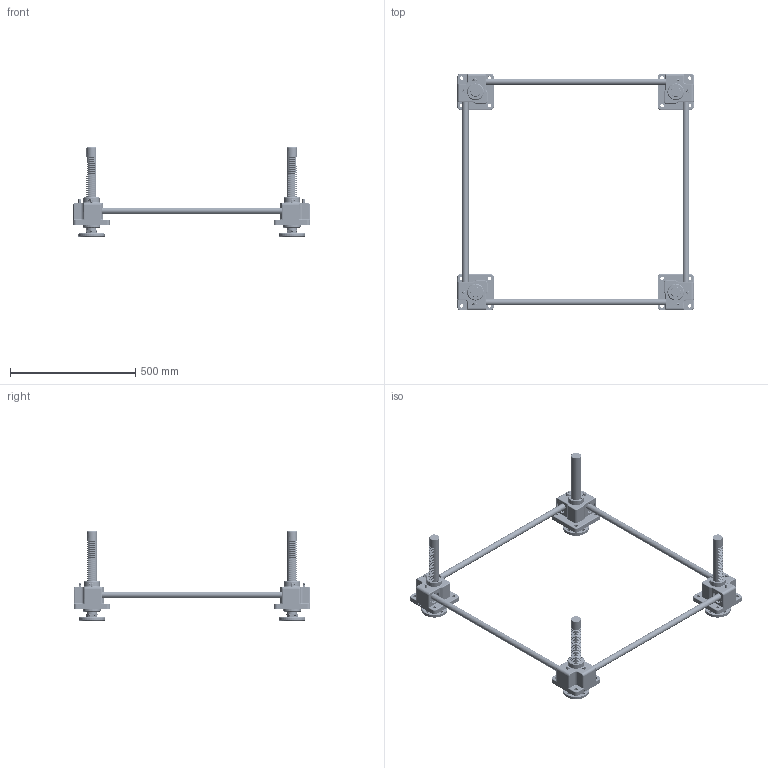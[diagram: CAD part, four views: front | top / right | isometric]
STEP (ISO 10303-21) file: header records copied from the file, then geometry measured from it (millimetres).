
FILE_DESCRIPTION(('STEP AP203'),'1');
FILE_NAME('SP3000FU-800x800-200ST.stp','2022-06-15T01:59:59',(' '),(' '),'Spatial InterOp 3D',' ',' ');
FILE_SCHEMA(('CONFIG_CONTROL_DESIGN'));
Length unit declared in the file: millimetre
Products named in the file (90): SP3000FU-800x800-200ST; ASSEM1; Flange.1-Part; Joint.1; Flange.1; Nut.1; Flange.2-Part; Nut.2; Joint.2; Flange.2; Flange.3-Part; Nut.3; Joint.3; Flange.3; Flange.4-Part; Nut.4; Joint.4; Flange.4; Body.1-Part; Nipple; SnapRing-58Pie; SnapRing-55Pie; 6205zz; Du Bush; Gear Box.1(SP-3000); RJ05-4SCJ-610X600-100ST_CAP; LABEL-B.1; ___; 파트18; __; Body.2-Part; Gear Box.2(SP-3000); Body.3-Part; Gear Box.3(SP-3000); Body.4-Part; Gear Box.4(SP-3000); Shaft.1; Shaft.2
Assembly tree (91 placements, depth 6):
  SP3000FU-800x800-200ST
    ASSEM1
    (unnamed)
    (unnamed)
    (unnamed)
    Flange.1-Part
      Joint.1
      Flange.1
      Nut.1
    Flange.2-Part
      Nut.2
      Joint.2
      Flange.2
    Flange.3-Part
      Nut.3
      Joint.3
      Flange.3
    Flange.4-Part
      Nut.4
      Joint.4
      Flange.4
    Body.1-Part
      Nipple
      Nipple
      SnapRing-58Pie
      SnapRing-55Pie
      SnapRing-58Pie
      SnapRing-55Pie
      6205zz
      6205zz
      Du Bush
      Du Bush
      Gear Box.1(SP-3000)
      __
        ___
          RJ05-4SCJ-610X600-100ST_CAP
            LABEL-B.1
          파트18
    Body.2-Part
      Nipple
      Nipple
      SnapRing-58Pie
      SnapRing-58Pie
      SnapRing-55Pie
      SnapRing-55Pie
      Du Bush
      Du Bush
      6205zz
      6205zz
      Gear Box.2(SP-3000)
      __
        ___
          RJ05-4SCJ-610X600-100ST_CAP
            LABEL-B.1
          파트18
    Body.3-Part
      Nipple
      Nipple
      SnapRing-58Pie
      SnapRing-58Pie
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Bounding box: 948.54 x 945.44 x 357 mm (x, y, z)
Volume: 6587963.9 mm3; surface area: 1348935.6 mm2
Topology: 95 solids, 95 shells, 9840 faces, 27331 edges, 17685 vertices
Faces by surface type: plane 8118, cylinder 982, cone 252, sphere 200, torus 192, bspline 64, revolution 32
Full cylindrical faces by diameter (mm): 3.087 x16, 3.257 x14, 5.6 x8, 6 x8, 9.886 x8, 14 x32, 19 x8, 25 x12, 28 x12, 30 x8, 32 x4, 32.5 x16, 40 x12, 44 x4, 45 x8, 46.1 x16, 50 x16, 52 x16, 52.4 x8, 54 x4, 55 x20, 58 x8, 65 x4, 70 x4, 105 x4
Entity records: 317076 total; most frequent: CARTESIAN_POINT 66432, ORIENTED_EDGE 52148, DIRECTION 47870, EDGE_CURVE 26074, LINE 22254, VECTOR 22254, VERTEX_POINT 17260, AXIS2_PLACEMENT_3D 12792
